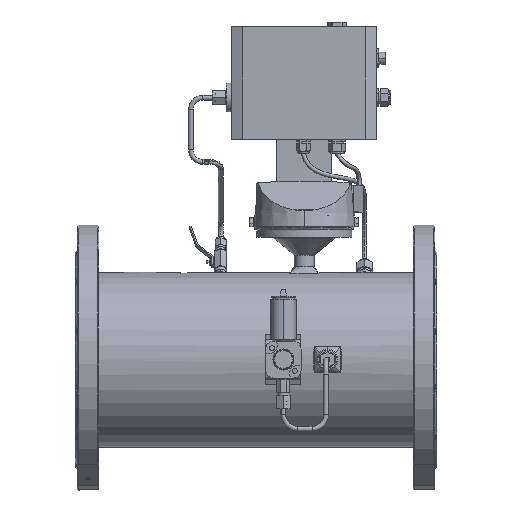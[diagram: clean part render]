
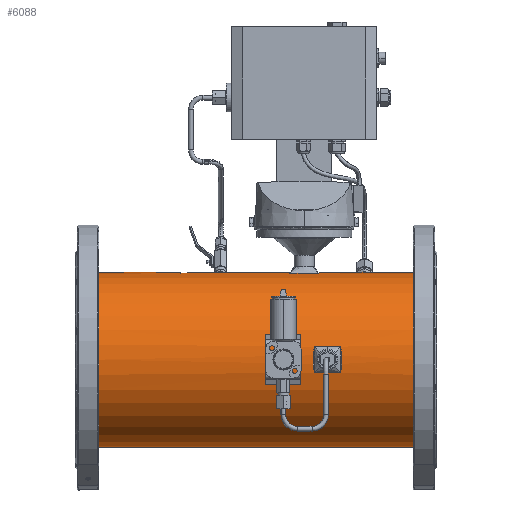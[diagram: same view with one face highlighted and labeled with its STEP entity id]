
A CAD part, top view. The second image highlights one B-rep face of the part: STEP entity #6088.
In plain terms, the highlighted cylindrical face has radius 108.7 mm (diameter 217.4 mm), a partial arc.
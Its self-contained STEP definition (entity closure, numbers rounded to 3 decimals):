
#4945=CARTESIAN_POINT('',(290.5,16.107,107.5));
#4946=CARTESIAN_POINT('',(288.891,5.369,109.109));
#4947=CARTESIAN_POINT('',(288.891,-5.369,109.109));
#4948=CARTESIAN_POINT('',(290.5,-16.107,107.5));
#4953=DIRECTION('',(1.,0.,0.));
#4954=VECTOR('',#4953,33.);
#4955=CARTESIAN_POINT('',(290.5,-16.107,107.5));
#4956=LINE('',#4955,#4954);
#4960=CARTESIAN_POINT('',(323.5,-16.107,107.5));
#4961=CARTESIAN_POINT('',(325.109,-5.369,109.109));
#4962=CARTESIAN_POINT('',(325.109,5.369,109.109));
#4963=CARTESIAN_POINT('',(323.5,16.107,107.5));
#4968=DIRECTION('',(1.,0.,0.));
#4969=VECTOR('',#4968,33.);
#4970=CARTESIAN_POINT('',(290.5,16.107,107.5));
#4971=LINE('',#4970,#4969);
#4975=CARTESIAN_POINT('',(258.8,108.7,0.));
#4976=CARTESIAN_POINT('',(258.8,108.7,5.428));
#4977=CARTESIAN_POINT('',(259.204,108.296,10.797));
#4978=CARTESIAN_POINT('',(260.,107.5,16.107));
#4983=DIRECTION('',(1.,0.,0.));
#4984=VECTOR('',#4983,36.);
#4985=CARTESIAN_POINT('',(260.,107.5,16.107));
#4986=LINE('',#4985,#4984);
#4990=CARTESIAN_POINT('',(297.2,108.7,0.));
#4991=CARTESIAN_POINT('',(297.2,108.7,5.428));
#4992=CARTESIAN_POINT('',(296.796,108.296,10.797));
#4993=CARTESIAN_POINT('',(296.,107.5,16.107));
#4998=CARTESIAN_POINT('',(414.,0.,0.));
#4999=DIRECTION('',(1.,0.,0.));
#5000=DIRECTION('',(0.,1.,0.));
#5001=AXIS2_PLACEMENT_3D('',#4998,#4999,#5000);
#5006=CARTESIAN_POINT('',(21.5,0.,0.));
#5007=DIRECTION('',(1.,0.,0.));
#5008=DIRECTION('',(0.,1.,0.));
#5009=AXIS2_PLACEMENT_3D('',#5006,#5007,#5008);
#5014=CARTESIAN_POINT('',(93.86,0.,0.));
#5015=DIRECTION('',(1.,0.,0.));
#5016=DIRECTION('',(0.,1.,0.));
#5017=AXIS2_PLACEMENT_3D('',#5014,#5015,#5016);
#5022=DIRECTION('',(1.,0.,0.));
#5023=VECTOR('',#5022,30.);
#5024=CARTESIAN_POINT('',(93.86,108.585,5.));
#5025=LINE('',#5024,#5023);
#5029=CARTESIAN_POINT('',(123.86,0.,0.));
#5030=DIRECTION('',(1.,0.,0.));
#5031=DIRECTION('',(0.,0.999,0.046));
#5032=AXIS2_PLACEMENT_3D('',#5029,#5030,#5031);
#5037=CARTESIAN_POINT('',(149.087,108.7,0.));
#5038=CARTESIAN_POINT('',(140.668,108.7,4.861));
#5039=CARTESIAN_POINT('',(132.259,108.375,9.716));
#5040=CARTESIAN_POINT('',(123.86,107.72,14.565));
#5231=DIRECTION('',(-1.,0.,0.));
#5232=VECTOR('',#5231,109.713);
#5233=CARTESIAN_POINT('',(258.8,108.7,0.));
#5234=LINE('',#5233,#5232);
#5269=DIRECTION('',(-1.,0.,0.));
#5270=VECTOR('',#5269,72.36);
#5271=CARTESIAN_POINT('',(93.86,108.7,0.));
#5272=LINE('',#5271,#5270);
#5284=DIRECTION('',(-1.,0.,0.));
#5285=VECTOR('',#5284,392.5);
#5286=CARTESIAN_POINT('',(414.,-108.7,0.));
#5287=LINE('',#5286,#5285);
#5299=DIRECTION('',(-1.,0.,0.));
#5300=VECTOR('',#5299,116.8);
#5301=CARTESIAN_POINT('',(414.,108.7,0.));
#5302=LINE('',#5301,#5300);
#5833=CARTESIAN_POINT('',(414.,108.7,0.));
#5834=CARTESIAN_POINT('',(414.,-108.7,0.));
#5835=VERTEX_POINT('',#5833);
#5836=VERTEX_POINT('',#5834);
#5837=VERTEX_POINT('',#4975);
#5838=VERTEX_POINT('',#4978);
#5839=CARTESIAN_POINT('',(296.,107.5,16.107));
#5840=VERTEX_POINT('',#5839);
#5841=VERTEX_POINT('',#4990);
#5865=VERTEX_POINT('',#4945);
#5866=VERTEX_POINT('',#4948);
#5867=VERTEX_POINT('',#4960);
#5868=VERTEX_POINT('',#4963);
#5873=CARTESIAN_POINT('',(21.5,108.7,0.));
#5874=CARTESIAN_POINT('',(21.5,-108.7,0.));
#5875=VERTEX_POINT('',#5873);
#5876=VERTEX_POINT('',#5874);
#5927=CARTESIAN_POINT('',(149.087,108.7,0.));
#5928=VERTEX_POINT('',#5927);
#5929=CARTESIAN_POINT('',(93.86,108.7,0.));
#5930=VERTEX_POINT('',#5929);
#5945=CARTESIAN_POINT('',(93.86,108.585,5.));
#5946=VERTEX_POINT('',#5945);
#5947=CARTESIAN_POINT('',(123.86,108.585,5.));
#5948=VERTEX_POINT('',#5947);
#5949=CARTESIAN_POINT('',(123.86,107.72,14.565));
#5950=VERTEX_POINT('',#5949);
#6046=CARTESIAN_POINT('',(-21.85,0.,0.));
#6047=DIRECTION('',(1.,0.,0.));
#6048=DIRECTION('',(0.,-1.,0.));
#6049=AXIS2_PLACEMENT_3D('',#6046,#6047,#6048);
#6050=CYLINDRICAL_SURFACE('',#6049,108.7);
#6052=ORIENTED_EDGE('',*,*,#6051,.F.);
#6054=ORIENTED_EDGE('',*,*,#6053,.T.);
#6056=ORIENTED_EDGE('',*,*,#6055,.T.);
#6058=ORIENTED_EDGE('',*,*,#6057,.F.);
#6060=ORIENTED_EDGE('',*,*,#6059,.F.);
#6061=ORIENTED_EDGE('',*,*,#6028,.T.);
#6063=ORIENTED_EDGE('',*,*,#6062,.T.);
#6065=ORIENTED_EDGE('',*,*,#6064,.F.);
#6067=ORIENTED_EDGE('',*,*,#6066,.F.);
#6069=ORIENTED_EDGE('',*,*,#6068,.T.);
#6071=ORIENTED_EDGE('',*,*,#6070,.T.);
#6073=ORIENTED_EDGE('',*,*,#6072,.T.);
#6075=ORIENTED_EDGE('',*,*,#6074,.F.);
#6076=EDGE_LOOP('',(#6052,#6054,#6056,#6058,#6060,#6061,#6063,#6065,#6067,#6069,
#6071,#6073,#6075));
#6077=FACE_OUTER_BOUND('',#6076,.F.);
#6079=ORIENTED_EDGE('',*,*,#6078,.T.);
#6081=ORIENTED_EDGE('',*,*,#6080,.T.);
#6083=ORIENTED_EDGE('',*,*,#6082,.T.);
#6085=ORIENTED_EDGE('',*,*,#6084,.F.);
#6086=EDGE_LOOP('',(#6079,#6081,#6083,#6085));
#6087=FACE_BOUND('',#6086,.F.);
#4949=B_SPLINE_CURVE_WITH_KNOTS('',3,(#4945,#4946,#4947,#4948),.UNSPECIFIED.,
.F.,.F.,(4,4),(0.,1.),.UNSPECIFIED.);
#4964=B_SPLINE_CURVE_WITH_KNOTS('',3,(#4960,#4961,#4962,#4963),.UNSPECIFIED.,
.F.,.F.,(4,4),(0.,1.),.UNSPECIFIED.);
#4979=B_SPLINE_CURVE_WITH_KNOTS('',3,(#4975,#4976,#4977,#4978),.UNSPECIFIED.,
.F.,.F.,(4,4),(0.,1.),.UNSPECIFIED.);
#4994=B_SPLINE_CURVE_WITH_KNOTS('',3,(#4990,#4991,#4992,#4993),.UNSPECIFIED.,
.F.,.F.,(4,4),(0.,1.),.UNSPECIFIED.);
#5002=CIRCLE('',#5001,108.7);
#5010=CIRCLE('',#5009,108.7);
#5018=CIRCLE('',#5017,108.7);
#5033=CIRCLE('',#5032,108.7);
#5041=B_SPLINE_CURVE_WITH_KNOTS('',3,(#5037,#5038,#5039,#5040),.UNSPECIFIED.,
.F.,.F.,(4,4),(0.,1.),.UNSPECIFIED.);
#6028=EDGE_CURVE('',#5835,#5836,#5002,.T.);
#6051=EDGE_CURVE('',#5837,#5928,#5234,.T.);
#6053=EDGE_CURVE('',#5837,#5838,#4979,.T.);
#6055=EDGE_CURVE('',#5838,#5840,#4986,.T.);
#6057=EDGE_CURVE('',#5841,#5840,#4994,.T.);
#6059=EDGE_CURVE('',#5835,#5841,#5302,.T.);
#6062=EDGE_CURVE('',#5836,#5876,#5287,.T.);
#6064=EDGE_CURVE('',#5875,#5876,#5010,.T.);
#6066=EDGE_CURVE('',#5930,#5875,#5272,.T.);
#6068=EDGE_CURVE('',#5930,#5946,#5018,.T.);
#6070=EDGE_CURVE('',#5946,#5948,#5025,.T.);
#6072=EDGE_CURVE('',#5948,#5950,#5033,.T.);
#6074=EDGE_CURVE('',#5928,#5950,#5041,.T.);
#6078=EDGE_CURVE('',#5865,#5866,#4949,.T.);
#6080=EDGE_CURVE('',#5866,#5867,#4956,.T.);
#6082=EDGE_CURVE('',#5867,#5868,#4964,.T.);
#6084=EDGE_CURVE('',#5865,#5868,#4971,.T.);
#6088=ADVANCED_FACE('',(#6077,#6087),#6050,.T.);
